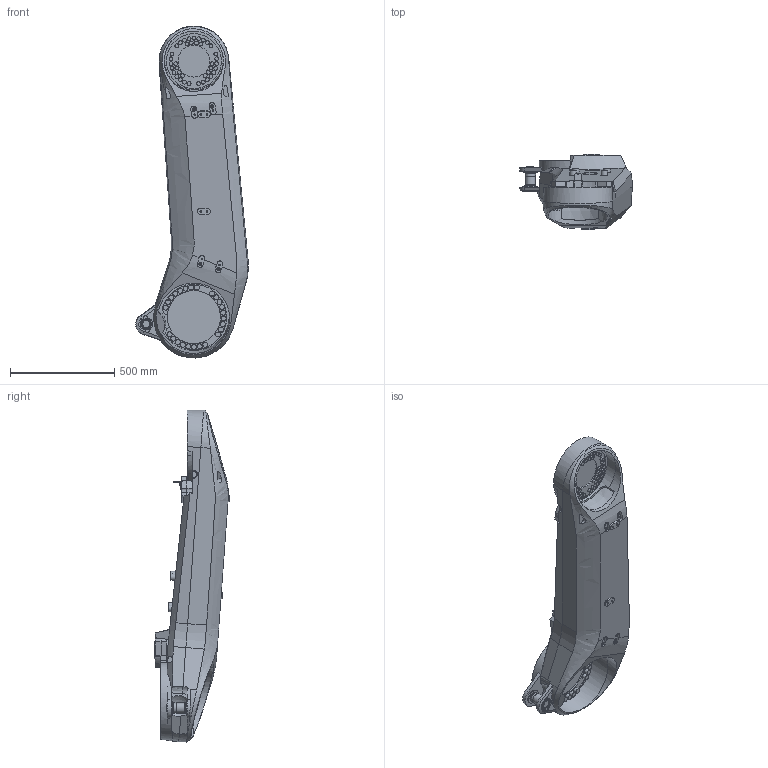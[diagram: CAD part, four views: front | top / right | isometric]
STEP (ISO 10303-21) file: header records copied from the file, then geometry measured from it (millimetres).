
FILE_DESCRIPTION (( 'STEP AP214' ), '1' );
FILE_NAME ('IRB6740-LID_230kg-300_OC_00_LINK02_CAD.step', '2026-05-07T13:21:09', ( '' ), ( '' ), 'SwSTEP 2.0', 'SolidWorks 2024', '' );
FILE_SCHEMA (( 'AUTOMOTIVE_DESIGN' ));
Length unit declared in the file: millimetre
Products named in the file (1): IRB6740-LID_230kg-300_OC_00_LINK02_CAD
Bounding box: 538.99 x 362.5 x 1588.85 mm (x, y, z)
Volume: 81938247.1 mm3; surface area: 2204248.1 mm2
Topology: 1 solids, 2 shells, 577 faces, 1342 edges, 885 vertices
Faces by surface type: plane 328, cylinder 152, bspline 64, cone 28, torus 4, sphere 1
Full cylindrical faces by diameter (mm): 6.8 x4, 7 x8, 8.5 x4, 12 x2, 14 x1, 16 x5, 17.4 x1, 17.9 x2, 18 x3, 18.27 x39, 20 x1, 24 x25, 34 x1, 47 x1, 49.4 x1, 50 x2, 51 x2, 67 x1, 71 x1, 152 x1, 255 x1, 263 x2, 297 x1, 315 x1, 355.5 x1
Entity records: 41586 total; most frequent: CARTESIAN_POINT 23491, ORIENTED_EDGE 2316, DIRECTION 2141, EDGE_CURVE 1158, VERTEX_POINT 841, EDGE_LOOP 841, AXIS2_PLACEMENT_3D 814, FACE_OUTER_BOUND 697
